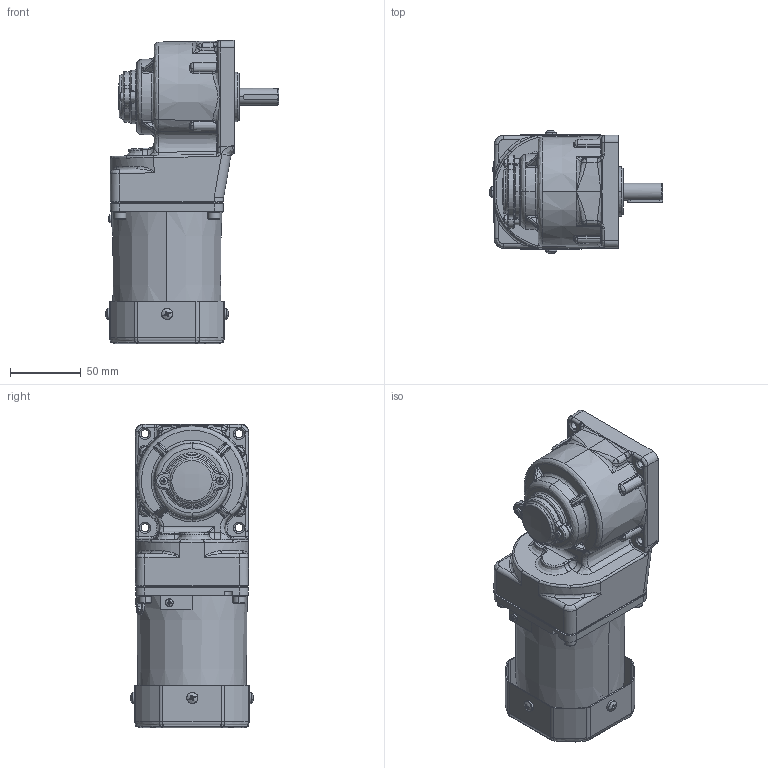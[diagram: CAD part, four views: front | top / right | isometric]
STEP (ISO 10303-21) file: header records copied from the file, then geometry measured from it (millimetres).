
FILE_DESCRIPTION (( 'STEP AP203' ), '1' );
FILE_NAME ('4IK40GN-CF(4GN3RT-180RT)ÐÂ.STEP', '2022-02-21T08:02:44', ( 'PC' ), ( 'Microsoft' ), 'SwSTEP 2.0', 'SolidWorks 2014', '' );
FILE_SCHEMA (( 'CONFIG_CONTROL_DESIGN' ));
Length unit declared in the file: millimetre
Products named in the file (16): 80綴傷裔; hexagon socket head cap screws gb_GB_FASTENER_SCREWS_HSHCS M4X12-N; cross recessed pan head screws gb_GB_CROSS_SCREWS_TYPE1 M3X6-6  H type-N; M5X20-S; 4IK25A-C_AF0^4IK25A-C_4IK40A-CF.STEP; PRT0016^4IK25A-C_4IK40A-CF.STEP; PRT0017^4IK25A-C_4IK40A-CF.STEP; 4IK25A-C^4IK40A-CF.STEP; 80FZ.STEP; M4.STEP; 4IK40GN-CF.STEP; 4IK40GN-CF(4GN3RT-180RT)陔; zd-4gn1000rc-504-001-20211209（PROE导出的版本）; 80眻褒眊裔; 80妗陑怀堤粣; 80壔裔
Assembly tree (25 placements, depth 4):
  4IK40GN-CF(4GN3RT-180RT)陔
    80眻褒眊裔
    zd-4gn1000rc-504-001-20211209（PROE导出的版本）
    80妗陑怀堤粣
    80壔裔
    80綴傷裔
    hexagon socket head cap screws gb_GB_FASTENER_SCREWS_HSHCS M4X12-N  x4
    cross recessed pan head screws gb_GB_CROSS_SCREWS_TYPE1 M3X6-6  H type-N  x2
    M5X20-S  x4
    4IK40GN-CF.STEP
      4IK25A-C^4IK40A-CF.STEP
        4IK25A-C_AF0^4IK25A-C_4IK40A-CF.STEP
        PRT0016^4IK25A-C_4IK40A-CF.STEP
        PRT0017^4IK25A-C_4IK40A-CF.STEP
      80FZ.STEP
      M4.STEP  x4
Bounding box: 122.52 x 87.04 x 214.47 mm (x, y, z)
Volume: 714560.1 mm3; surface area: 178506.6 mm2
Topology: 23 solids, 23 shells, 3345 faces, 7765 edges, 4426 vertices
Faces by surface type: cone 1271, cylinder 879, plane 685, bspline 500, torus 8, sphere 2
Entity records: 94793 total; most frequent: CARTESIAN_POINT 50023, ORIENTED_EDGE 9578, DIRECTION 7900, EDGE_CURVE 4789, AXIS2_PLACEMENT_3D 2885, VERTEX_POINT 2869, EDGE_LOOP 2232, VECTOR 2130
